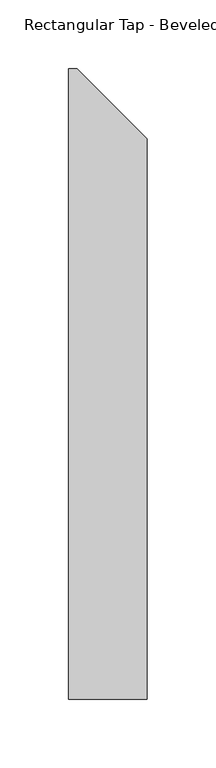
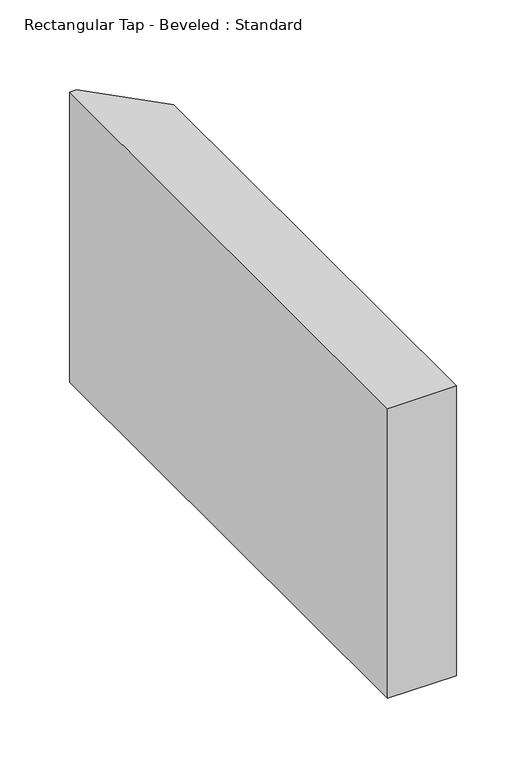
"""IFC4 building model written with IfcOpenShell, lengths in millimetres: duct fitting geometry, Rectangular Tap - Beveled : Standard."""

from ifc_helpers import new_model, si_unit, frame, origin, place, context, project, spatial, polyline, outline, extrude, source, transform, mapped, element, save


def rectangular_tap_beveled_standard_906d3a90(model_context):
    return source(origin(), model_context, "Body", "SweptSolid", [
        extrude(outline(polyline([(50.8, -203.2), (-6.096, -203.2), (-6.096, 254.0), (0.0, 254.0), (50.8, 203.2), (50.8, -203.2)])), frame((0.0, 0.0, -127.0), z_axis=(0.0, 0.0, 1.0), x_axis=(1.0, 0.0, 0.0)), (0.0, 0.0, 1.0), 254.0),
    ])


if __name__ == "__main__":
    model = new_model("IFC4")
    model_context = context("Model", 3, world=origin())
    ifc_project = project(units=[si_unit("LENGTHUNIT", "METRE", prefix="MILLI")], contexts=[model_context])
    site = spatial("IfcSite", under=ifc_project)
    building = spatial("IfcBuilding", under=site)
    placement = place(None, origin())
    rectangular_tap_beveled_standard_shape = rectangular_tap_beveled_standard_906d3a90(model_context)
    element("IfcDuctFitting", 1, ObjectType="Rectangular Tap - Beveled : Standard", at=placement, inside=building, context=model_context, shape_type="MappedRepresentation", body=[
        mapped(rectangular_tap_beveled_standard_shape, transform((0.0, 0.0, 0.0), x_axis=(1.0, 0.0, 0.0), y_axis=(0.0, 1.0, 0.0), z_axis=(0.0, 0.0, 1.0))),
    ])
    save(model, "model.ifc")
